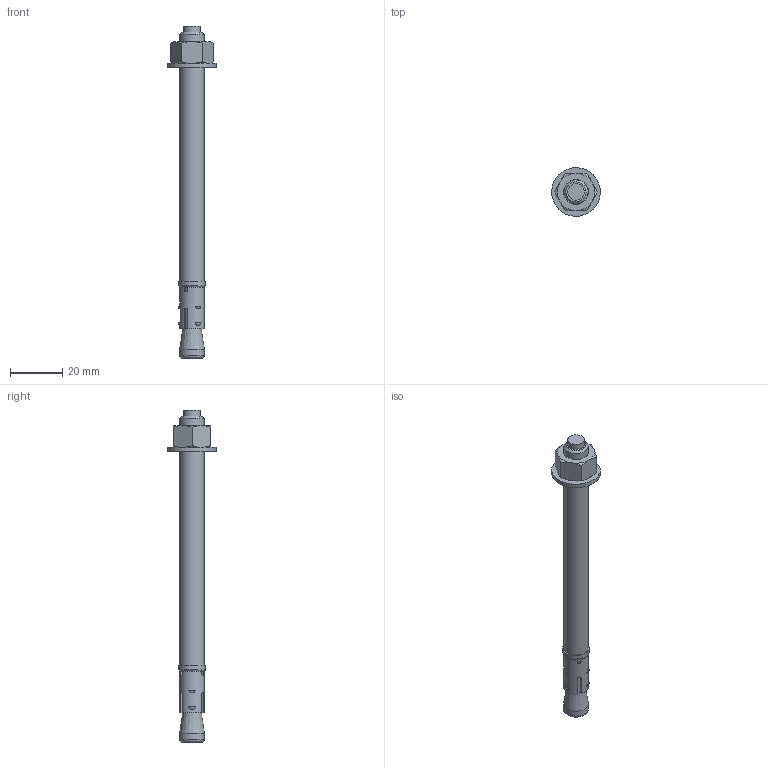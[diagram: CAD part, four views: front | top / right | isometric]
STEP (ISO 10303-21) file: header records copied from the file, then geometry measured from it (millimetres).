
FILE_DESCRIPTION(/* description */ (''),/* implementation_level */ '2;1');
FILE_NAME(/* name */ 'C:\001_Work\Designs\SASE\SASE-0.375 x 5.000 ANCHOR.stp',/* time_stamp */ '2015-10-20T09:37:33-04:00',/* author */ ('rramoutar'),/* organization */ ('Mason Industries Inc.'),/* preprocessor_version */ 'ST-DEVELOPER v15.6',/* originating_system */ 'Autodesk Inventor 2015',/* authorisation */ '');
FILE_SCHEMA (('AUTOMOTIVE_DESIGN { 1 0 10303 214 3 1 1 }'));
Length unit declared in the file: inch
Products named in the file (1): SASE-0.375 x 5.000 ANCHOR
Bounding box: 18.59 x 18.59 x 127 mm (x, y, z)
Volume: 9470 mm3; surface area: 5321.4 mm2
Topology: 1 solids, 1 shells, 77 faces, 176 edges, 110 vertices
Faces by surface type: plane 37, cone 16, cylinder 15, sphere 7, torus 2
Full cylindrical faces by diameter (mm): 6.35 x1, 6.706 x1, 7.144 x1, 9.271 x2, 9.525 x1, 10.065 x1, 10.312 x1, 18.644 x1
Entity records: 2338 total; most frequent: CARTESIAN_POINT 624, DIRECTION 338, ORIENTED_EDGE 310, EDGE_CURVE 155, AXIS2_PLACEMENT_3D 143, EDGE_LOOP 106, VERTEX_POINT 105, STYLED_ITEM 78
